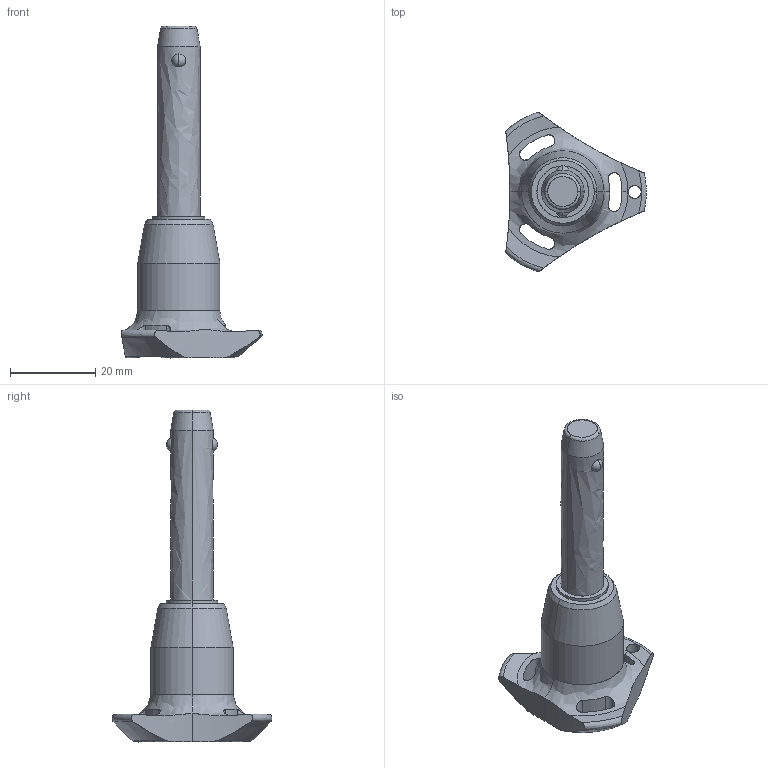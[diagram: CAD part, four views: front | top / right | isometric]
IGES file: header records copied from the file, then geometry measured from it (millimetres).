
Start section: SolidWorks IGES file using analytic representation for surfaces
Global section: file name: C:\Users\ianosborn\Desktop\QR1734_v2\QR1734_v2_20251113_IGES\QR1734.M10-035-S.igs; native system: SolidWorks 2019; preprocessor: SolidWorks 2019; author: IanOsborn; date: 251112.142454; units: millimetre
Bounding box: 33 x 37.51 x 77.9 mm (x, y, z)
Surface area: 5264 mm2 (no closed solid volume)
Topology: 0 solids, 0 shells, 65 faces, 1282 edges, 1278 vertices
Faces by surface type: revolution 50, bspline 15
